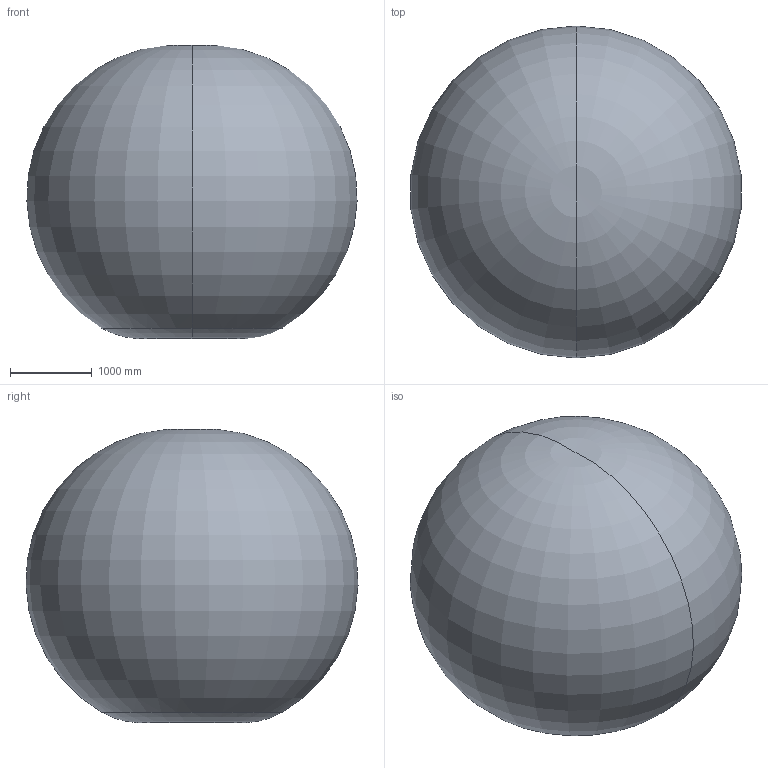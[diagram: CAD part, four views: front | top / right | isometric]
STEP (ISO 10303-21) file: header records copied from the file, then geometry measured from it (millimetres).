
FILE_DESCRIPTION (( 'STEP AP214' ), '1' );
FILE_NAME ('IRB4600_45kg-205_WORKING-SPACE_rev00.STEP', '2016-12-06T10:31:17', ( 'ABB' ), ( 'ABB' ), 'SwSTEP 2.0', 'SolidWorks 2014', '' );
FILE_SCHEMA (( 'AUTOMOTIVE_DESIGN' ));
Length unit declared in the file: millimetre
Products named in the file (1): IRB4600_45kg-205_WORKING-SPACE_rev00
Bounding box: 4046.03 x 4068.31 x 3592.35 mm (x, y, z)
Volume: 32390186059.7 mm3; surface area: 53887732.8 mm2
Topology: 1 solids, 2 shells, 8 faces, 20 edges, 8 vertices
Faces by surface type: torus 8
Entity records: 220 total; most frequent: DIRECTION 42, CARTESIAN_POINT 29, ORIENTED_EDGE 24, AXIS2_PLACEMENT_3D 21, CIRCLE 12, EDGE_CURVE 12, TOROIDAL_SURFACE 8, ADVANCED_FACE 8
